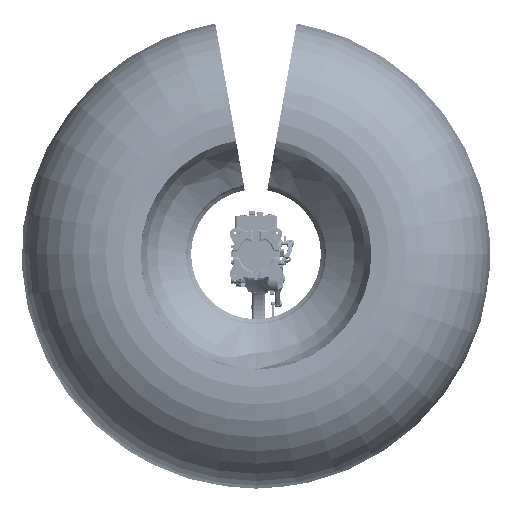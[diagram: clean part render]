
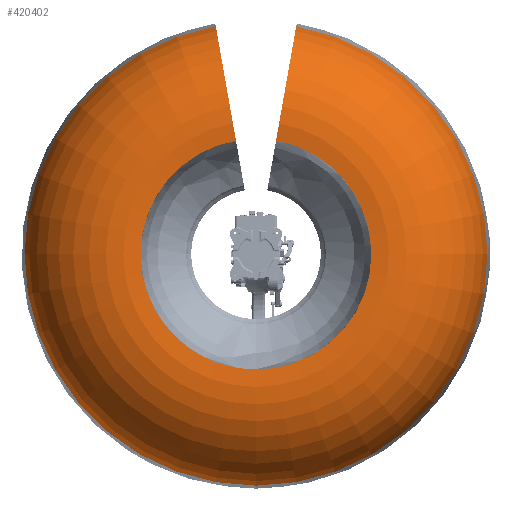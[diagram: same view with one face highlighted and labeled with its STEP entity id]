
A CAD part, front view. The second image highlights one B-rep face of the part: STEP entity #420402.
In plain terms, the highlighted toroidal (fillet/blend) face has major radius 1033.91 mm and minor radius 780 mm.
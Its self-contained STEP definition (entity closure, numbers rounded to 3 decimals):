
#420160=CARTESIAN_POINT('',(-179.537,204.237,
1018.202));
#420161=DIRECTION('',(-0.985,0.,-0.174));
#420162=DIRECTION('',(0.03,-0.985,-0.171));
#420163=AXIS2_PLACEMENT_3D('',#420160,#420161,#420162);
#420195=CARTESIAN_POINT('',(0.,68.791,0.));
#420196=DIRECTION('',(0.,-1.,0.));
#420197=DIRECTION('',(-0.174,0.,0.985));
#420198=AXIS2_PLACEMENT_3D('',#420195,#420196,#420197);
#420200=CARTESIAN_POINT('',(0.,-563.913,0.));
#420201=DIRECTION('',(0.,-1.,0.));
#420202=DIRECTION('',(-0.174,0.,0.985));
#420203=AXIS2_PLACEMENT_3D('',#420200,#420201,#420202);
#420230=CARTESIAN_POINT('',(179.537,204.237,
1018.202));
#420231=DIRECTION('',(-0.985,0.,0.174));
#420232=DIRECTION('',(-0.03,-0.985,
-0.171));
#420233=AXIS2_PLACEMENT_3D('',#420230,#420231,#420232);
#420244=CARTESIAN_POINT('',(-156.017,-563.913,
884.814));
#420245=VERTEX_POINT('',#420244);
#420246=CARTESIAN_POINT('',(-312.924,68.791,
1774.682));
#420247=VERTEX_POINT('',#420246);
#420256=CARTESIAN_POINT('',(156.017,-563.913,
884.814));
#420257=VERTEX_POINT('',#420256);
#420258=CARTESIAN_POINT('',(312.924,68.791,
1774.682));
#420259=VERTEX_POINT('',#420258);
#420389=CARTESIAN_POINT('',(0.,204.237,0.));
#420390=DIRECTION('',(0.,-1.,0.));
#420391=DIRECTION('',(0.174,0.,-0.985));
#420392=AXIS2_PLACEMENT_3D('',#420389,#420390,#420391);
#420393=TOROIDAL_SURFACE('',#420392,1033.91,780.);
#420394=ORIENTED_EDGE('',*,*,#420273,.F.);
#420396=ORIENTED_EDGE('',*,*,#420395,.T.);
#420398=ORIENTED_EDGE('',*,*,#420397,.T.);
#420399=ORIENTED_EDGE('',*,*,#420381,.F.);
#420400=EDGE_LOOP('',(#420394,#420396,#420398,#420399));
#420401=FACE_OUTER_BOUND('',#420400,.F.);
#420402=ADVANCED_FACE('',(#420401),#420393,.T.);
#420164=CIRCLE('',#420163,780.);
#420199=CIRCLE('',#420198,1802.06);
#420204=CIRCLE('',#420203,898.464);
#420234=CIRCLE('',#420233,780.);
#420273=EDGE_CURVE('',#420245,#420247,#420164,.T.);
#420381=EDGE_CURVE('',#420247,#420259,#420199,.T.);
#420395=EDGE_CURVE('',#420245,#420257,#420204,.T.);
#420397=EDGE_CURVE('',#420257,#420259,#420234,.T.);
